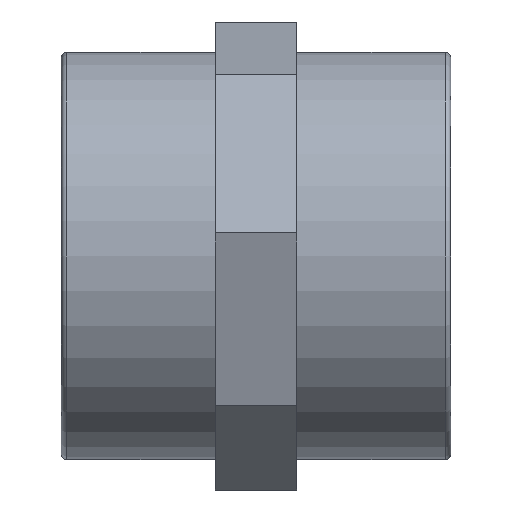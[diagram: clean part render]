
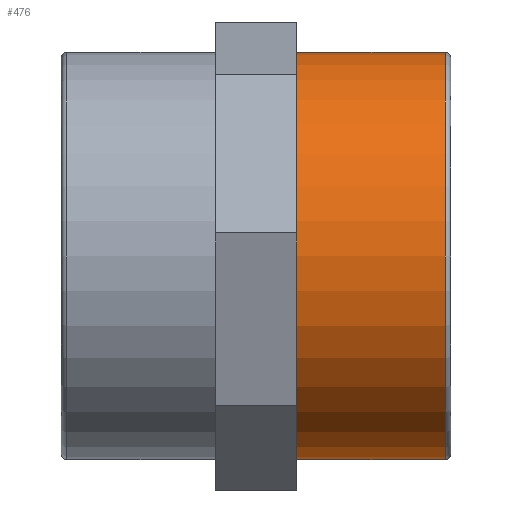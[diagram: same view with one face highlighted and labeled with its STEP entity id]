
A CAD part, front view. The second image highlights one B-rep face of the part: STEP entity #476.
In plain terms, the highlighted cylindrical face has radius 37.5 mm (diameter 75 mm), a full revolution.
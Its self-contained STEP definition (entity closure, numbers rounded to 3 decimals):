
#46=CYLINDRICAL_SURFACE('',#514,37.5);
#55=FACE_BOUND('',#135,.T.);
#72=CIRCLE('',#513,37.5);
#73=CIRCLE('',#515,37.5);
#99=FACE_OUTER_BOUND('',#134,.T.);
#134=EDGE_LOOP('',(#378));
#135=EDGE_LOOP('',(#379));
#238=VERTEX_POINT('',#716);
#239=VERTEX_POINT('',#719);
#292=EDGE_CURVE('',#238,#238,#72,.T.);
#293=EDGE_CURVE('',#239,#239,#73,.T.);
#378=ORIENTED_EDGE('',*,*,#293,.F.);
#379=ORIENTED_EDGE('',*,*,#292,.T.);
#476=ADVANCED_FACE('',(#99,#55),#46,.T.);
#513=AXIS2_PLACEMENT_3D('',#717,#595,#596);
#514=AXIS2_PLACEMENT_3D('',#718,#597,#598);
#515=AXIS2_PLACEMENT_3D('',#720,#599,#600);
#595=DIRECTION('center_axis',(1.,0.,0.));
#596=DIRECTION('ref_axis',(0.,-1.,0.));
#597=DIRECTION('center_axis',(-1.,0.,0.));
#598=DIRECTION('ref_axis',(0.,-1.,0.));
#599=DIRECTION('center_axis',(1.,0.,0.));
#600=DIRECTION('ref_axis',(0.,1.,0.));
#716=CARTESIAN_POINT('',(43.35,37.5,0.));
#717=CARTESIAN_POINT('Origin',(43.35,0.,0.));
#718=CARTESIAN_POINT('Origin',(35.85,0.,0.));
#719=CARTESIAN_POINT('',(70.7,-37.5,0.));
#720=CARTESIAN_POINT('Origin',(70.7,0.,0.));
